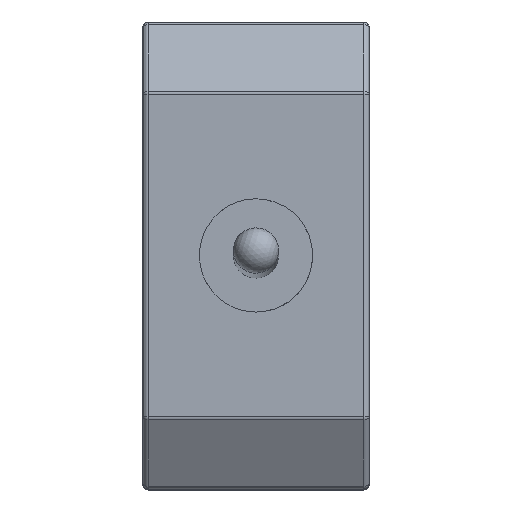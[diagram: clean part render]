
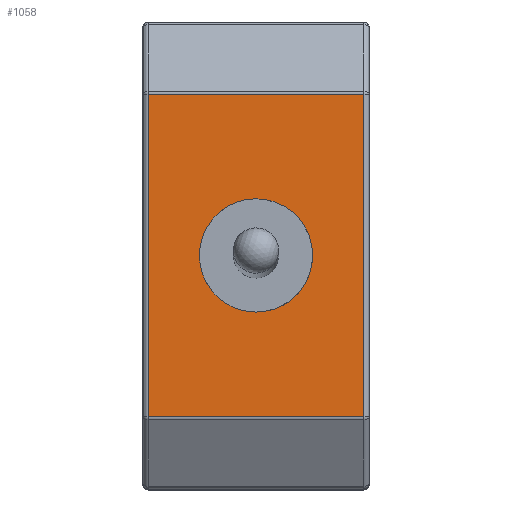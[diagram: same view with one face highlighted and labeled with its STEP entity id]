
A CAD part, top view. The second image highlights one B-rep face of the part: STEP entity #1058.
In plain terms, the highlighted planar face has unit normal (0, 0, 1).
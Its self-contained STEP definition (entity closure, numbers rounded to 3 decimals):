
#158 = EDGE_LOOP ( 'NONE', ( #3799, #1389, #1729, #540 ) ) ;
#226 = CARTESIAN_POINT ( 'NONE',  ( -3.8, -45.797, -18.561 ) ) ;
#234 = LINE ( 'NONE', #1811, #1352 ) ;
#276 = CARTESIAN_POINT ( 'NONE',  ( 4., -31.853, -18.561 ) ) ;
#298 = VERTEX_POINT ( 'NONE', #226 ) ;
#335 = DIRECTION ( 'NONE',  ( -1., 0., 0. ) ) ;
#336 = CARTESIAN_POINT ( 'NONE',  ( 0., -40.103, -18.561 ) ) ;
#476 = VECTOR ( 'NONE', #335, 1000. ) ;
#540 = ORIENTED_EDGE ( 'NONE', *, *, #2989, .T. ) ;
#551 = EDGE_CURVE ( 'NONE', #3156, #298, #3928, .T. ) ;
#957 = LINE ( 'NONE', #3184, #476 ) ;
#1058 = ADVANCED_FACE ( 'NONE', ( #4032, #3378 ), #1479, .F. ) ;
#1079 = CIRCLE ( 'NONE', #3744, 2. ) ;
#1186 = DIRECTION ( 'NONE',  ( 1., 0., 0. ) ) ;
#1352 = VECTOR ( 'NONE', #1186, 1000. ) ;
#1389 = ORIENTED_EDGE ( 'NONE', *, *, #551, .T. ) ;
#1402 = CARTESIAN_POINT ( 'NONE',  ( -3.8, -34.408, -18.561 ) ) ;
#1451 = DIRECTION ( 'NONE',  ( 0., 0., 1. ) ) ;
#1455 = CARTESIAN_POINT ( 'NONE',  ( 3.8, -45.797, -18.561 ) ) ;
#1463 = CARTESIAN_POINT ( 'NONE',  ( -3.8, -31.853, -18.561 ) ) ;
#1479 = PLANE ( 'NONE',  #2026 ) ;
#1499 = CARTESIAN_POINT ( 'NONE',  ( 3.8, -34.408, -18.561 ) ) ;
#1503 = ORIENTED_EDGE ( 'NONE', *, *, #3868, .F. ) ;
#1729 = ORIENTED_EDGE ( 'NONE', *, *, #2562, .T. ) ;
#1811 = CARTESIAN_POINT ( 'NONE',  ( 4., -45.797, -18.561 ) ) ;
#1988 = VERTEX_POINT ( 'NONE', #2583 ) ;
#2026 = AXIS2_PLACEMENT_3D ( 'NONE', #276, #3106, #2188 ) ;
#2159 = EDGE_LOOP ( 'NONE', ( #1503 ) ) ;
#2188 = DIRECTION ( 'NONE',  ( 0., 1., 0. ) ) ;
#2466 = VERTEX_POINT ( 'NONE', #1455 ) ;
#2562 = EDGE_CURVE ( 'NONE', #298, #2466, #234, .T. ) ;
#2583 = CARTESIAN_POINT ( 'NONE',  ( 0., -42.103, -18.561 ) ) ;
#2641 = VERTEX_POINT ( 'NONE', #1499 ) ;
#2675 = VECTOR ( 'NONE', #4022, 1000. ) ;
#2751 = DIRECTION ( 'NONE',  ( 0., -1., 0. ) ) ;
#2804 = EDGE_CURVE ( 'NONE', #2641, #3156, #957, .T. ) ;
#2989 = EDGE_CURVE ( 'NONE', #2466, #2641, #3411, .T. ) ;
#3106 = DIRECTION ( 'NONE',  ( 0., 0., -1. ) ) ;
#3136 = CARTESIAN_POINT ( 'NONE',  ( 3.8, -34.353, -18.561 ) ) ;
#3156 = VERTEX_POINT ( 'NONE', #1402 ) ;
#3184 = CARTESIAN_POINT ( 'NONE',  ( 4., -34.408, -18.561 ) ) ;
#3378 = FACE_OUTER_BOUND ( 'NONE', #158, .T. ) ;
#3411 = LINE ( 'NONE', #3136, #2675 ) ;
#3616 = DIRECTION ( 'NONE',  ( 0., -1., 0. ) ) ;
#3744 = AXIS2_PLACEMENT_3D ( 'NONE', #336, #1451, #2751 ) ;
#3754 = VECTOR ( 'NONE', #3616, 1000. ) ;
#3799 = ORIENTED_EDGE ( 'NONE', *, *, #2804, .T. ) ;
#3868 = EDGE_CURVE ( 'NONE', #1988, #1988, #1079, .T. ) ;
#3928 = LINE ( 'NONE', #1463, #3754 ) ;
#4022 = DIRECTION ( 'NONE',  ( 0., 1., 0. ) ) ;
#4032 = FACE_BOUND ( 'NONE', #2159, .T. ) ;
